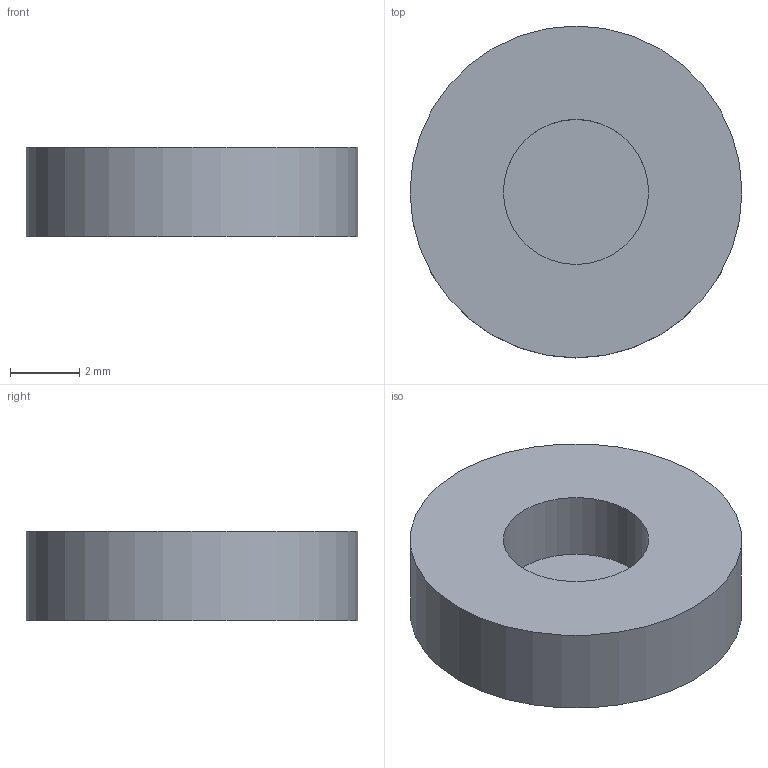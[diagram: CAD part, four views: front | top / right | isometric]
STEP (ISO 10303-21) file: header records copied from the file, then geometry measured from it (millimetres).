
FILE_DESCRIPTION(('FreeCAD Model'),'2;1');
FILE_NAME('Open CASCADE Shape Model','2026-10-18T19:16:07',('FreeCAD'),( 'FreeCAD'),'Open CASCADE STEP processor 7.9','FreeCAD','Unknown');
FILE_SCHEMA(('AUTOMOTIVE_DESIGN { 1 0 10303 214 1 1 1 1 }'));
Length unit declared in the file: millimetre
Products named in the file (1): Open CASCADE STEP translator 7.9 8
Bounding box: 9.6 x 9.6 x 2.58 mm (x, y, z)
Volume: 147.1 mm3; surface area: 249.3 mm2
Topology: 1 solids, 1 shells, 5 faces, 8 edges, 5 vertices
Faces by surface type: cylinder 2, plane 2, sphere 1
Full cylindrical faces by diameter (mm): 4.2 x1, 9.6 x1
Entity records: 124 total; most frequent: DIRECTION 24, CARTESIAN_POINT 18, ORIENTED_EDGE 14, AXIS2_PLACEMENT_3D 11, EDGE_CURVE 7, FACE_BOUND 6, EDGE_LOOP 6, ADVANCED_FACE 5
